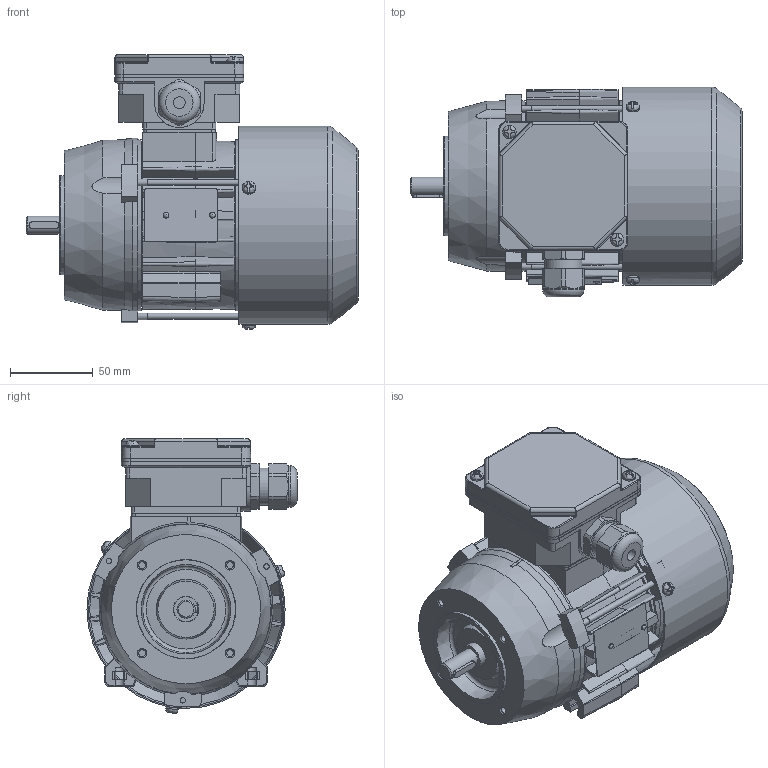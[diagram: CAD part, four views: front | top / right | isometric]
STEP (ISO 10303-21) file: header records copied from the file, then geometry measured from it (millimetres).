
FILE_DESCRIPTION( ( 'Unknown' ), '1' );
FILE_NAME( 'G:/Poczta Tk-1/STP/w.m.63/Sh63/SKh63-A2.stp', 'Unknown', ( 'K. Szlosek' ), ( 'BESEL S.A.' ), 'PSStep 17.0.49', 'Unknown', ' ' );
FILE_SCHEMA( ( 'AUTOMOTIVE_DESIGN { 1 0 10303 214 1 1 1 1 }' ) );
Length unit declared in the file: millimetre
Products named in the file (29): Assem1; K2-0860 Pokrywka skrzynki zaciskowej; K3-9973 Kadłub ze stojanem wykończonym Sh63-B; K1-1112 Tarcza kołnierzowa B14_2 SKg63-..2; Wpust A4x4x18; K3-5320 Tarcza łożyskowa P Sg63; Wkręt samogwintujący M4x8; K3-9974 Wał Sh63-B; K2-1769 Przewietrznik Sg63; K4-2320 Uszczelka nr 1 Sh71,80; K4-2820 Uszczelka nr 2 Sh71,80; Wkręt samogwintujący M4x16; Nitokołek A 2x6; K3-11364 osłona przewietrznika Sh63-A; Łożysko 6202; Śruba ściągająca E_M4x80; K2-0859 Podstawa skrzynki 6-cio zaciskowej; Dławnica M20x1,5; Tabliczka znamionowa 32x44
Assembly tree (45 placements, depth 2):
  Assem1
    K2-0860 Pokrywka skrzynki zaciskowej
    K3-9973 Kadłub ze stojanem wykończonym Sh63-B
    K1-1112 Tarcza kołnierzowa B14_2 SKg63-..2
    Wpust A4x4x18
    K3-5320 Tarcza łożyskowa P Sg63
    Wkręt samogwintujący M4x8  x3
    K3-9974 Wał Sh63-B
    K2-1769 Przewietrznik Sg63
    K4-2320 Uszczelka nr 1 Sh71,80
    K4-2820 Uszczelka nr 2 Sh71,80
    Wkręt samogwintujący M4x16  x2
    Nitokołek A 2x6  x2
    K3-11364 osłona przewietrznika Sh63-A
    Łożysko 6202  x2
    Łożysko 6202  x2
    Łożysko 6202  x2
    Łożysko 6202  x2
    Łożysko 6202  x2
    Łożysko 6202  x2
    Łożysko 6202  x2
    Łożysko 6202  x2
    Łożysko 6202  x2
    Łożysko 6202  x2
    Łożysko 6202  x2
    Śruba ściągająca E_M4x80  x3
    K2-0859 Podstawa skrzynki 6-cio zaciskowej
    Dławnica M20x1,5
    Tabliczka znamionowa 32x44
Bounding box: 200.3 x 126.8 x 165.9 mm (x, y, z)
Volume: 474514.7 mm3; surface area: 329902.9 mm2
Topology: 45 solids, 63 shells, 1855 faces, 5089 edges, 3300 vertices
Faces by surface type: plane 920, cylinder 541, cone 142, torus 116, bspline 97, sphere 39
Full cylindrical faces by diameter (mm): 2 x2, 2.4 x2, 3.242 x3, 3.7 x10, 4 x8, 4.134 x4, 4.5 x4, 4.8 x4, 5 x4, 7 x4, 8 x6, 11 x1, 12.9 x1, 13.1 x1, 13.5 x1, 15 x4, 15.4 x2, 18.376 x1, 18.38 x1, 19 x2, 19.5 x1, 20 x2, 20.1 x1, 21.52 x4, 22.3 x1, 25 x1, 28 x2, 28.48 x4, 31 x2, 35 x4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
Entity records: 81160 total; most frequent: CARTESIAN_POINT 25462, ORIENTED_EDGE 8752, DIRECTION 8368, EDGE_CURVE 4376, AXIS2_PLACEMENT_3D 3127, VERTEX_POINT 2982, LINE 2114, VECTOR 2114
